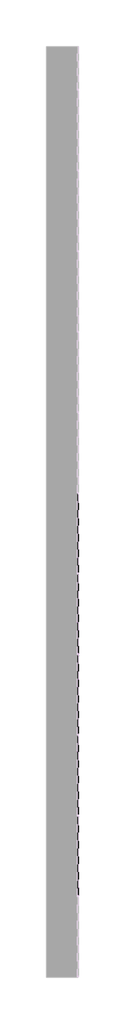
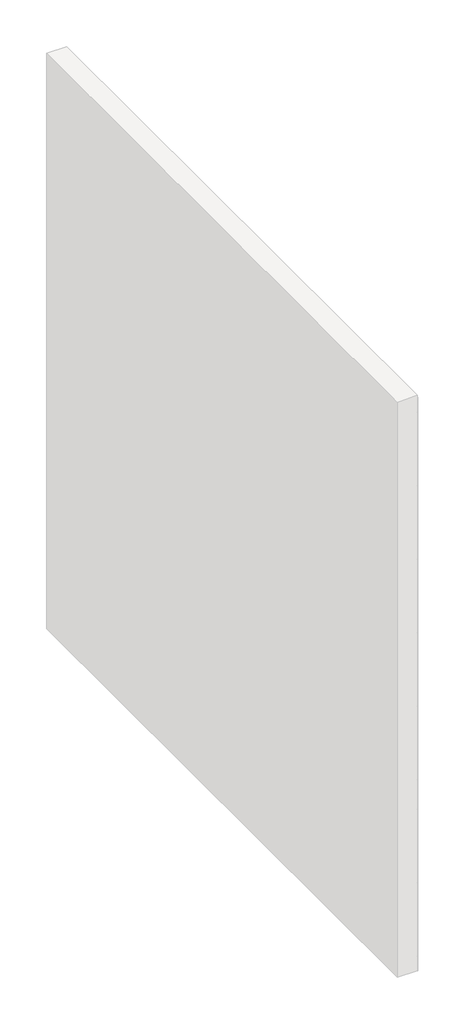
# One storey, part 5 of 45: 147 proxies.
"""IFC4 building model written with IfcOpenShell, lengths in millimetres."""

from ifc_helpers import new_model, si_unit, origin, place, context, project, spatial, transform, mapped, element, save
from components import generic_models_ab0f2c30

model = new_model("IFC4")

# Units and contexts
model_context = context("Model", 3, world=origin())
ifc_project = project(units=[si_unit("LENGTHUNIT", "METRE", prefix="MILLI")], contexts=[model_context])

# Site, building, storey
site = spatial("IfcSite", under=ifc_project)
building = spatial("IfcBuilding", under=site)
storey = spatial("IfcBuildingStorey", under=building, Name="PORTOBELLO - SHOWROOM", Elevation=0.0)

# Proxies
placement = place(None, origin())
generic_models_shape = generic_models_ab0f2c30(model_context)
element("IfcBuildingElementProxy", 1, Name="PBSHOP - HORIZONTES NEW YORK 6,5X23 : NEW YORK DOWNTOWN", ObjectType="PBSHOP - HORIZONTES NEW YORK 6,5X23 : NEW YORK DOWNTOWN", at=placement, inside=storey, context=model_context, shape_type="MappedRepresentation", body=[
    mapped(generic_models_shape, transform((63939.1036979, 6500.0036359, 310.5), x_axis=(0.0, 0.0, 1.0), y_axis=(0.0, -1.0, 0.0), z_axis=(1.0, 0.0, 0.0))),
])
element("IfcBuildingElementProxy", 2, Name="PBSHOP - HORIZONTES NEW YORK 6,5X23 : NEW YORK DOWNTOWN", ObjectType="PBSHOP - HORIZONTES NEW YORK 6,5X23 : NEW YORK DOWNTOWN", at=placement, inside=storey, context=model_context, shape_type="MappedRepresentation", body=[
    mapped(generic_models_shape, transform((63939.1036979, 6734.0036359, 310.5), x_axis=(0.0, 0.0, 1.0), y_axis=(0.0, -1.0, 0.0), z_axis=(1.0, 0.0, 0.0))),
])
element("IfcBuildingElementProxy", 3, Name="PBSHOP - HORIZONTES NEW YORK 6,5X23 : NEW YORK DOWNTOWN", ObjectType="PBSHOP - HORIZONTES NEW YORK 6,5X23 : NEW YORK DOWNTOWN", at=placement, inside=storey, context=model_context, shape_type="MappedRepresentation", body=[
    mapped(generic_models_shape, transform((63939.1036979, 6968.0036359, 310.5), x_axis=(0.0, 0.0, 1.0), y_axis=(0.0, -1.0, 0.0), z_axis=(1.0, 0.0, 0.0))),
])
element("IfcBuildingElementProxy", 4, Name="PBSHOP - HORIZONTES NEW YORK 6,5X23 : NEW YORK DOWNTOWN", ObjectType="PBSHOP - HORIZONTES NEW YORK 6,5X23 : NEW YORK DOWNTOWN", at=placement, inside=storey, context=model_context, shape_type="MappedRepresentation", body=[
    mapped(generic_models_shape, transform((63939.1036979, 6032.0036359, 379.5), x_axis=(0.0, 0.0, 1.0), y_axis=(0.0, -1.0, 0.0), z_axis=(1.0, 0.0, 0.0))),
])
element("IfcBuildingElementProxy", 5, Name="PBSHOP - HORIZONTES NEW YORK 6,5X23 : NEW YORK DOWNTOWN", ObjectType="PBSHOP - HORIZONTES NEW YORK 6,5X23 : NEW YORK DOWNTOWN", at=placement, inside=storey, context=model_context, shape_type="MappedRepresentation", body=[
    mapped(generic_models_shape, transform((63939.1036979, 6266.0036359, 379.5), x_axis=(0.0, 0.0, 1.0), y_axis=(0.0, -1.0, 0.0), z_axis=(1.0, 0.0, 0.0))),
])
element("IfcBuildingElementProxy", 6, Name="PBSHOP - HORIZONTES NEW YORK 6,5X23 : NEW YORK DOWNTOWN", ObjectType="PBSHOP - HORIZONTES NEW YORK 6,5X23 : NEW YORK DOWNTOWN", at=placement, inside=storey, context=model_context, shape_type="MappedRepresentation", body=[
    mapped(generic_models_shape, transform((63939.1036979, 6500.0036359, 379.5), x_axis=(0.0, 0.0, 1.0), y_axis=(0.0, -1.0, 0.0), z_axis=(1.0, 0.0, 0.0))),
])
element("IfcBuildingElementProxy", 7, Name="PBSHOP - HORIZONTES NEW YORK 6,5X23 : NEW YORK DOWNTOWN", ObjectType="PBSHOP - HORIZONTES NEW YORK 6,5X23 : NEW YORK DOWNTOWN", at=placement, inside=storey, context=model_context, shape_type="MappedRepresentation", body=[
    mapped(generic_models_shape, transform((63939.1036979, 6734.0036359, 379.5), x_axis=(0.0, 0.0, 1.0), y_axis=(0.0, -1.0, 0.0), z_axis=(1.0, 0.0, 0.0))),
])
element("IfcBuildingElementProxy", 8, Name="PBSHOP - HORIZONTES NEW YORK 6,5X23 : NEW YORK DOWNTOWN", ObjectType="PBSHOP - HORIZONTES NEW YORK 6,5X23 : NEW YORK DOWNTOWN", at=placement, inside=storey, context=model_context, shape_type="MappedRepresentation", body=[
    mapped(generic_models_shape, transform((63939.1036979, 6968.0036359, 379.5), x_axis=(0.0, 0.0, 1.0), y_axis=(0.0, -1.0, 0.0), z_axis=(1.0, 0.0, 0.0))),
])
element("IfcBuildingElementProxy", 9, Name="PBSHOP - HORIZONTES NEW YORK 6,5X23 : NEW YORK DOWNTOWN", ObjectType="PBSHOP - HORIZONTES NEW YORK 6,5X23 : NEW YORK DOWNTOWN", at=placement, inside=storey, context=model_context, shape_type="MappedRepresentation", body=[
    mapped(generic_models_shape, transform((63939.1036979, 6032.0036359, 448.5), x_axis=(0.0, 0.0, 1.0), y_axis=(0.0, -1.0, 0.0), z_axis=(1.0, 0.0, 0.0))),
])
element("IfcBuildingElementProxy", 10, Name="PBSHOP - HORIZONTES NEW YORK 6,5X23 : NEW YORK DOWNTOWN", ObjectType="PBSHOP - HORIZONTES NEW YORK 6,5X23 : NEW YORK DOWNTOWN", at=placement, inside=storey, context=model_context, shape_type="MappedRepresentation", body=[
    mapped(generic_models_shape, transform((63939.1036979, 6266.0036359, 448.5), x_axis=(0.0, 0.0, 1.0), y_axis=(0.0, -1.0, 0.0), z_axis=(1.0, 0.0, 0.0))),
])
element("IfcBuildingElementProxy", 11, Name="PBSHOP - HORIZONTES NEW YORK 6,5X23 : NEW YORK DOWNTOWN", ObjectType="PBSHOP - HORIZONTES NEW YORK 6,5X23 : NEW YORK DOWNTOWN", at=placement, inside=storey, context=model_context, shape_type="MappedRepresentation", body=[
    mapped(generic_models_shape, transform((63939.1036979, 6500.0036359, 448.5), x_axis=(0.0, 0.0, 1.0), y_axis=(0.0, -1.0, 0.0), z_axis=(1.0, 0.0, 0.0))),
])
element("IfcBuildingElementProxy", 12, Name="PBSHOP - HORIZONTES NEW YORK 6,5X23 : NEW YORK DOWNTOWN", ObjectType="PBSHOP - HORIZONTES NEW YORK 6,5X23 : NEW YORK DOWNTOWN", at=placement, inside=storey, context=model_context, shape_type="MappedRepresentation", body=[
    mapped(generic_models_shape, transform((63939.1036979, 6734.0036359, 448.5), x_axis=(0.0, 0.0, 1.0), y_axis=(0.0, -1.0, 0.0), z_axis=(1.0, 0.0, 0.0))),
])
element("IfcBuildingElementProxy", 13, Name="PBSHOP - HORIZONTES NEW YORK 6,5X23 : NEW YORK DOWNTOWN", ObjectType="PBSHOP - HORIZONTES NEW YORK 6,5X23 : NEW YORK DOWNTOWN", at=placement, inside=storey, context=model_context, shape_type="MappedRepresentation", body=[
    mapped(generic_models_shape, transform((63939.1036979, 6968.0036359, 448.5), x_axis=(0.0, 0.0, 1.0), y_axis=(0.0, -1.0, 0.0), z_axis=(1.0, 0.0, 0.0))),
])
element("IfcBuildingElementProxy", 14, Name="PBSHOP - HORIZONTES NEW YORK 6,5X23 : NEW YORK DOWNTOWN", ObjectType="PBSHOP - HORIZONTES NEW YORK 6,5X23 : NEW YORK DOWNTOWN", at=placement, inside=storey, context=model_context, shape_type="MappedRepresentation", body=[
    mapped(generic_models_shape, transform((63939.1036979, 6032.0036359, 517.5), x_axis=(0.0, 0.0, 1.0), y_axis=(0.0, -1.0, 0.0), z_axis=(1.0, 0.0, 0.0))),
])
element("IfcBuildingElementProxy", 15, Name="PBSHOP - HORIZONTES NEW YORK 6,5X23 : NEW YORK DOWNTOWN", ObjectType="PBSHOP - HORIZONTES NEW YORK 6,5X23 : NEW YORK DOWNTOWN", at=placement, inside=storey, context=model_context, shape_type="MappedRepresentation", body=[
    mapped(generic_models_shape, transform((63939.1036979, 6266.0036359, 517.5), x_axis=(0.0, 0.0, 1.0), y_axis=(0.0, -1.0, 0.0), z_axis=(1.0, 0.0, 0.0))),
])
element("IfcBuildingElementProxy", 16, Name="PBSHOP - HORIZONTES NEW YORK 6,5X23 : NEW YORK DOWNTOWN", ObjectType="PBSHOP - HORIZONTES NEW YORK 6,5X23 : NEW YORK DOWNTOWN", at=placement, inside=storey, context=model_context, shape_type="MappedRepresentation", body=[
    mapped(generic_models_shape, transform((63939.1036979, 6500.0036359, 517.5), x_axis=(0.0, 0.0, 1.0), y_axis=(0.0, -1.0, 0.0), z_axis=(1.0, 0.0, 0.0))),
])
element("IfcBuildingElementProxy", 17, Name="PBSHOP - HORIZONTES NEW YORK 6,5X23 : NEW YORK DOWNTOWN", ObjectType="PBSHOP - HORIZONTES NEW YORK 6,5X23 : NEW YORK DOWNTOWN", at=placement, inside=storey, context=model_context, shape_type="MappedRepresentation", body=[
    mapped(generic_models_shape, transform((63939.1036979, 6734.0036359, 517.5), x_axis=(0.0, 0.0, 1.0), y_axis=(0.0, -1.0, 0.0), z_axis=(1.0, 0.0, 0.0))),
])
element("IfcBuildingElementProxy", 18, Name="PBSHOP - HORIZONTES NEW YORK 6,5X23 : NEW YORK DOWNTOWN", ObjectType="PBSHOP - HORIZONTES NEW YORK 6,5X23 : NEW YORK DOWNTOWN", at=placement, inside=storey, context=model_context, shape_type="MappedRepresentation", body=[
    mapped(generic_models_shape, transform((63939.1036979, 6968.0036359, 517.5), x_axis=(0.0, 0.0, 1.0), y_axis=(0.0, -1.0, 0.0), z_axis=(1.0, 0.0, 0.0))),
])
element("IfcBuildingElementProxy", 19, Name="PBSHOP - HORIZONTES NEW YORK 6,5X23 : NEW YORK DOWNTOWN", ObjectType="PBSHOP - HORIZONTES NEW YORK 6,5X23 : NEW YORK DOWNTOWN", at=placement, inside=storey, context=model_context, shape_type="MappedRepresentation", body=[
    mapped(generic_models_shape, transform((63939.1036979, 6032.0036359, 586.5), x_axis=(0.0, 0.0, 1.0), y_axis=(0.0, -1.0, 0.0), z_axis=(1.0, 0.0, 0.0))),
])
element("IfcBuildingElementProxy", 20, Name="PBSHOP - HORIZONTES NEW YORK 6,5X23 : NEW YORK DOWNTOWN", ObjectType="PBSHOP - HORIZONTES NEW YORK 6,5X23 : NEW YORK DOWNTOWN", at=placement, inside=storey, context=model_context, shape_type="MappedRepresentation", body=[
    mapped(generic_models_shape, transform((63939.1036979, 6266.0036359, 586.5), x_axis=(0.0, 0.0, 1.0), y_axis=(0.0, -1.0, 0.0), z_axis=(1.0, 0.0, 0.0))),
])
element("IfcBuildingElementProxy", 21, Name="PBSHOP - HORIZONTES NEW YORK 6,5X23 : NEW YORK DOWNTOWN", ObjectType="PBSHOP - HORIZONTES NEW YORK 6,5X23 : NEW YORK DOWNTOWN", at=placement, inside=storey, context=model_context, shape_type="MappedRepresentation", body=[
    mapped(generic_models_shape, transform((63939.1036979, 6500.0036359, 586.5), x_axis=(0.0, 0.0, 1.0), y_axis=(0.0, -1.0, 0.0), z_axis=(1.0, 0.0, 0.0))),
])
element("IfcBuildingElementProxy", 22, Name="PBSHOP - HORIZONTES NEW YORK 6,5X23 : NEW YORK DOWNTOWN", ObjectType="PBSHOP - HORIZONTES NEW YORK 6,5X23 : NEW YORK DOWNTOWN", at=placement, inside=storey, context=model_context, shape_type="MappedRepresentation", body=[
    mapped(generic_models_shape, transform((63939.1036979, 6734.0036359, 586.5), x_axis=(0.0, 0.0, 1.0), y_axis=(0.0, -1.0, 0.0), z_axis=(1.0, 0.0, 0.0))),
])
element("IfcBuildingElementProxy", 23, Name="PBSHOP - HORIZONTES NEW YORK 6,5X23 : NEW YORK DOWNTOWN", ObjectType="PBSHOP - HORIZONTES NEW YORK 6,5X23 : NEW YORK DOWNTOWN", at=placement, inside=storey, context=model_context, shape_type="MappedRepresentation", body=[
    mapped(generic_models_shape, transform((63939.1036979, 6968.0036359, 586.5), x_axis=(0.0, 0.0, 1.0), y_axis=(0.0, -1.0, 0.0), z_axis=(1.0, 0.0, 0.0))),
])
element("IfcBuildingElementProxy", 24, Name="PBSHOP - HORIZONTES NEW YORK 6,5X23 : NEW YORK DOWNTOWN", ObjectType="PBSHOP - HORIZONTES NEW YORK 6,5X23 : NEW YORK DOWNTOWN", at=placement, inside=storey, context=model_context, shape_type="MappedRepresentation", body=[
    mapped(generic_models_shape, transform((63939.1036979, 6032.0036359, 655.5), x_axis=(0.0, 0.0, 1.0), y_axis=(0.0, -1.0, 0.0), z_axis=(1.0, 0.0, 0.0))),
])
element("IfcBuildingElementProxy", 25, Name="PBSHOP - HORIZONTES NEW YORK 6,5X23 : NEW YORK DOWNTOWN", ObjectType="PBSHOP - HORIZONTES NEW YORK 6,5X23 : NEW YORK DOWNTOWN", at=placement, inside=storey, context=model_context, shape_type="MappedRepresentation", body=[
    mapped(generic_models_shape, transform((63939.1036979, 6266.0036359, 655.5), x_axis=(0.0, 0.0, 1.0), y_axis=(0.0, -1.0, 0.0), z_axis=(1.0, 0.0, 0.0))),
])
element("IfcBuildingElementProxy", 26, Name="PBSHOP - HORIZONTES NEW YORK 6,5X23 : NEW YORK DOWNTOWN", ObjectType="PBSHOP - HORIZONTES NEW YORK 6,5X23 : NEW YORK DOWNTOWN", at=placement, inside=storey, context=model_context, shape_type="MappedRepresentation", body=[
    mapped(generic_models_shape, transform((63939.1036979, 6500.0036359, 655.5), x_axis=(0.0, 0.0, 1.0), y_axis=(0.0, -1.0, 0.0), z_axis=(1.0, 0.0, 0.0))),
])
element("IfcBuildingElementProxy", 27, Name="PBSHOP - HORIZONTES NEW YORK 6,5X23 : NEW YORK DOWNTOWN", ObjectType="PBSHOP - HORIZONTES NEW YORK 6,5X23 : NEW YORK DOWNTOWN", at=placement, inside=storey, context=model_context, shape_type="MappedRepresentation", body=[
    mapped(generic_models_shape, transform((63939.1036979, 6734.0036359, 655.5), x_axis=(0.0, 0.0, 1.0), y_axis=(0.0, -1.0, 0.0), z_axis=(1.0, 0.0, 0.0))),
])
element("IfcBuildingElementProxy", 28, Name="PBSHOP - HORIZONTES NEW YORK 6,5X23 : NEW YORK DOWNTOWN", ObjectType="PBSHOP - HORIZONTES NEW YORK 6,5X23 : NEW YORK DOWNTOWN", at=placement, inside=storey, context=model_context, shape_type="MappedRepresentation", body=[
    mapped(generic_models_shape, transform((63939.1036979, 6968.0036359, 655.5), x_axis=(0.0, 0.0, 1.0), y_axis=(0.0, -1.0, 0.0), z_axis=(1.0, 0.0, 0.0))),
])
element("IfcBuildingElementProxy", 29, Name="PBSHOP - HORIZONTES NEW YORK 6,5X23 : NEW YORK DOWNTOWN", ObjectType="PBSHOP - HORIZONTES NEW YORK 6,5X23 : NEW YORK DOWNTOWN", at=placement, inside=storey, context=model_context, shape_type="MappedRepresentation", body=[
    mapped(generic_models_shape, transform((63939.1036979, 6032.0036359, 724.5), x_axis=(0.0, 0.0, 1.0), y_axis=(0.0, -1.0, 0.0), z_axis=(1.0, 0.0, 0.0))),
])
element("IfcBuildingElementProxy", 30, Name="PBSHOP - HORIZONTES NEW YORK 6,5X23 : NEW YORK DOWNTOWN", ObjectType="PBSHOP - HORIZONTES NEW YORK 6,5X23 : NEW YORK DOWNTOWN", at=placement, inside=storey, context=model_context, shape_type="MappedRepresentation", body=[
    mapped(generic_models_shape, transform((63939.1036979, 6266.0036359, 724.5), x_axis=(0.0, 0.0, 1.0), y_axis=(0.0, -1.0, 0.0), z_axis=(1.0, 0.0, 0.0))),
])
element("IfcBuildingElementProxy", 31, Name="PBSHOP - HORIZONTES NEW YORK 6,5X23 : NEW YORK DOWNTOWN", ObjectType="PBSHOP - HORIZONTES NEW YORK 6,5X23 : NEW YORK DOWNTOWN", at=placement, inside=storey, context=model_context, shape_type="MappedRepresentation", body=[
    mapped(generic_models_shape, transform((63939.1036979, 6500.0036359, 724.5), x_axis=(0.0, 0.0, 1.0), y_axis=(0.0, -1.0, 0.0), z_axis=(1.0, 0.0, 0.0))),
])
element("IfcBuildingElementProxy", 32, Name="PBSHOP - HORIZONTES NEW YORK 6,5X23 : NEW YORK DOWNTOWN", ObjectType="PBSHOP - HORIZONTES NEW YORK 6,5X23 : NEW YORK DOWNTOWN", at=placement, inside=storey, context=model_context, shape_type="MappedRepresentation", body=[
    mapped(generic_models_shape, transform((63939.1036979, 6734.0036359, 724.5), x_axis=(0.0, 0.0, 1.0), y_axis=(0.0, -1.0, 0.0), z_axis=(1.0, 0.0, 0.0))),
])
element("IfcBuildingElementProxy", 33, Name="PBSHOP - HORIZONTES NEW YORK 6,5X23 : NEW YORK DOWNTOWN", ObjectType="PBSHOP - HORIZONTES NEW YORK 6,5X23 : NEW YORK DOWNTOWN", at=placement, inside=storey, context=model_context, shape_type="MappedRepresentation", body=[
    mapped(generic_models_shape, transform((63939.1036979, 6968.0036359, 724.5), x_axis=(0.0, 0.0, 1.0), y_axis=(0.0, -1.0, 0.0), z_axis=(1.0, 0.0, 0.0))),
])
element("IfcBuildingElementProxy", 34, Name="PBSHOP - HORIZONTES NEW YORK 6,5X23 : NEW YORK DOWNTOWN", ObjectType="PBSHOP - HORIZONTES NEW YORK 6,5X23 : NEW YORK DOWNTOWN", at=placement, inside=storey, context=model_context, shape_type="MappedRepresentation", body=[
    mapped(generic_models_shape, transform((63939.1036979, 6032.0036359, 793.5), x_axis=(0.0, 0.0, 1.0), y_axis=(0.0, -1.0, 0.0), z_axis=(1.0, 0.0, 0.0))),
])
element("IfcBuildingElementProxy", 35, Name="PBSHOP - HORIZONTES NEW YORK 6,5X23 : NEW YORK DOWNTOWN", ObjectType="PBSHOP - HORIZONTES NEW YORK 6,5X23 : NEW YORK DOWNTOWN", at=placement, inside=storey, context=model_context, shape_type="MappedRepresentation", body=[
    mapped(generic_models_shape, transform((63939.1036979, 6266.0036359, 793.5), x_axis=(0.0, 0.0, 1.0), y_axis=(0.0, -1.0, 0.0), z_axis=(1.0, 0.0, 0.0))),
])
element("IfcBuildingElementProxy", 36, Name="PBSHOP - HORIZONTES NEW YORK 6,5X23 : NEW YORK DOWNTOWN", ObjectType="PBSHOP - HORIZONTES NEW YORK 6,5X23 : NEW YORK DOWNTOWN", at=placement, inside=storey, context=model_context, shape_type="MappedRepresentation", body=[
    mapped(generic_models_shape, transform((63939.1036979, 6500.0036359, 793.5), x_axis=(0.0, 0.0, 1.0), y_axis=(0.0, -1.0, 0.0), z_axis=(1.0, 0.0, 0.0))),
])
element("IfcBuildingElementProxy", 37, Name="PBSHOP - HORIZONTES NEW YORK 6,5X23 : NEW YORK DOWNTOWN", ObjectType="PBSHOP - HORIZONTES NEW YORK 6,5X23 : NEW YORK DOWNTOWN", at=placement, inside=storey, context=model_context, shape_type="MappedRepresentation", body=[
    mapped(generic_models_shape, transform((63939.1036979, 6734.0036359, 793.5), x_axis=(0.0, 0.0, 1.0), y_axis=(0.0, -1.0, 0.0), z_axis=(1.0, 0.0, 0.0))),
])
element("IfcBuildingElementProxy", 38, Name="PBSHOP - HORIZONTES NEW YORK 6,5X23 : NEW YORK DOWNTOWN", ObjectType="PBSHOP - HORIZONTES NEW YORK 6,5X23 : NEW YORK DOWNTOWN", at=placement, inside=storey, context=model_context, shape_type="MappedRepresentation", body=[
    mapped(generic_models_shape, transform((63939.1036979, 6968.0036359, 793.5), x_axis=(0.0, 0.0, 1.0), y_axis=(0.0, -1.0, 0.0), z_axis=(1.0, 0.0, 0.0))),
])
element("IfcBuildingElementProxy", 39, Name="PBSHOP - HORIZONTES NEW YORK 6,5X23 : NEW YORK DOWNTOWN", ObjectType="PBSHOP - HORIZONTES NEW YORK 6,5X23 : NEW YORK DOWNTOWN", at=placement, inside=storey, context=model_context, shape_type="MappedRepresentation", body=[
    mapped(generic_models_shape, transform((63939.1036979, 6032.0036359, 862.5), x_axis=(0.0, 0.0, 1.0), y_axis=(0.0, -1.0, 0.0), z_axis=(1.0, 0.0, 0.0))),
])
element("IfcBuildingElementProxy", 40, Name="PBSHOP - HORIZONTES NEW YORK 6,5X23 : NEW YORK DOWNTOWN", ObjectType="PBSHOP - HORIZONTES NEW YORK 6,5X23 : NEW YORK DOWNTOWN", at=placement, inside=storey, context=model_context, shape_type="MappedRepresentation", body=[
    mapped(generic_models_shape, transform((63939.1036979, 6266.0036359, 862.5), x_axis=(0.0, 0.0, 1.0), y_axis=(0.0, -1.0, 0.0), z_axis=(1.0, 0.0, 0.0))),
])
element("IfcBuildingElementProxy", 41, Name="PBSHOP - HORIZONTES NEW YORK 6,5X23 : NEW YORK DOWNTOWN", ObjectType="PBSHOP - HORIZONTES NEW YORK 6,5X23 : NEW YORK DOWNTOWN", at=placement, inside=storey, context=model_context, shape_type="MappedRepresentation", body=[
    mapped(generic_models_shape, transform((63939.1036979, 6500.0036359, 862.5), x_axis=(0.0, 0.0, 1.0), y_axis=(0.0, -1.0, 0.0), z_axis=(1.0, 0.0, 0.0))),
])
element("IfcBuildingElementProxy", 42, Name="PBSHOP - HORIZONTES NEW YORK 6,5X23 : NEW YORK DOWNTOWN", ObjectType="PBSHOP - HORIZONTES NEW YORK 6,5X23 : NEW YORK DOWNTOWN", at=placement, inside=storey, context=model_context, shape_type="MappedRepresentation", body=[
    mapped(generic_models_shape, transform((63939.1036979, 6734.0036359, 862.5), x_axis=(0.0, 0.0, 1.0), y_axis=(0.0, -1.0, 0.0), z_axis=(1.0, 0.0, 0.0))),
])
element("IfcBuildingElementProxy", 43, Name="PBSHOP - HORIZONTES NEW YORK 6,5X23 : NEW YORK DOWNTOWN", ObjectType="PBSHOP - HORIZONTES NEW YORK 6,5X23 : NEW YORK DOWNTOWN", at=placement, inside=storey, context=model_context, shape_type="MappedRepresentation", body=[
    mapped(generic_models_shape, transform((63939.1036979, 6968.0036359, 862.5), x_axis=(0.0, 0.0, 1.0), y_axis=(0.0, -1.0, 0.0), z_axis=(1.0, 0.0, 0.0))),
])
element("IfcBuildingElementProxy", 44, Name="PBSHOP - HORIZONTES NEW YORK 6,5X23 : NEW YORK DOWNTOWN", ObjectType="PBSHOP - HORIZONTES NEW YORK 6,5X23 : NEW YORK DOWNTOWN", at=placement, inside=storey, context=model_context, shape_type="MappedRepresentation", body=[
    mapped(generic_models_shape, transform((63939.1036979, 6032.0036359, 931.5), x_axis=(0.0, 0.0, 1.0), y_axis=(0.0, -1.0, 0.0), z_axis=(1.0, 0.0, 0.0))),
])
element("IfcBuildingElementProxy", 45, Name="PBSHOP - HORIZONTES NEW YORK 6,5X23 : NEW YORK DOWNTOWN", ObjectType="PBSHOP - HORIZONTES NEW YORK 6,5X23 : NEW YORK DOWNTOWN", at=placement, inside=storey, context=model_context, shape_type="MappedRepresentation", body=[
    mapped(generic_models_shape, transform((63939.1036979, 6266.0036359, 931.5), x_axis=(0.0, 0.0, 1.0), y_axis=(0.0, -1.0, 0.0), z_axis=(1.0, 0.0, 0.0))),
])
element("IfcBuildingElementProxy", 46, Name="PBSHOP - HORIZONTES NEW YORK 6,5X23 : NEW YORK DOWNTOWN", ObjectType="PBSHOP - HORIZONTES NEW YORK 6,5X23 : NEW YORK DOWNTOWN", at=placement, inside=storey, context=model_context, shape_type="MappedRepresentation", body=[
    mapped(generic_models_shape, transform((63939.1036979, 6500.0036359, 931.5), x_axis=(0.0, 0.0, 1.0), y_axis=(0.0, -1.0, 0.0), z_axis=(1.0, 0.0, 0.0))),
])
element("IfcBuildingElementProxy", 47, Name="PBSHOP - HORIZONTES NEW YORK 6,5X23 : NEW YORK DOWNTOWN", ObjectType="PBSHOP - HORIZONTES NEW YORK 6,5X23 : NEW YORK DOWNTOWN", at=placement, inside=storey, context=model_context, shape_type="MappedRepresentation", body=[
    mapped(generic_models_shape, transform((63939.1036979, 6734.0036359, 931.5), x_axis=(0.0, 0.0, 1.0), y_axis=(0.0, -1.0, 0.0), z_axis=(1.0, 0.0, 0.0))),
])
element("IfcBuildingElementProxy", 48, Name="PBSHOP - HORIZONTES NEW YORK 6,5X23 : NEW YORK DOWNTOWN", ObjectType="PBSHOP - HORIZONTES NEW YORK 6,5X23 : NEW YORK DOWNTOWN", at=placement, inside=storey, context=model_context, shape_type="MappedRepresentation", body=[
    mapped(generic_models_shape, transform((63939.1036979, 6968.0036359, 931.5), x_axis=(0.0, 0.0, 1.0), y_axis=(0.0, -1.0, 0.0), z_axis=(1.0, 0.0, 0.0))),
])
element("IfcBuildingElementProxy", 49, Name="PBSHOP - HORIZONTES NEW YORK 6,5X23 : NEW YORK DOWNTOWN", ObjectType="PBSHOP - HORIZONTES NEW YORK 6,5X23 : NEW YORK DOWNTOWN", at=placement, inside=storey, context=model_context, shape_type="MappedRepresentation", body=[
    mapped(generic_models_shape, transform((63939.1036979, 6032.0036359, 1000.5), x_axis=(0.0, 0.0, 1.0), y_axis=(0.0, -1.0, 0.0), z_axis=(1.0, 0.0, 0.0))),
])
element("IfcBuildingElementProxy", 50, Name="PBSHOP - HORIZONTES NEW YORK 6,5X23 : NEW YORK DOWNTOWN", ObjectType="PBSHOP - HORIZONTES NEW YORK 6,5X23 : NEW YORK DOWNTOWN", at=placement, inside=storey, context=model_context, shape_type="MappedRepresentation", body=[
    mapped(generic_models_shape, transform((63939.1036979, 6266.0036359, 1000.5), x_axis=(0.0, 0.0, 1.0), y_axis=(0.0, -1.0, 0.0), z_axis=(1.0, 0.0, 0.0))),
])
element("IfcBuildingElementProxy", 51, Name="PBSHOP - HORIZONTES NEW YORK 6,5X23 : NEW YORK DOWNTOWN", ObjectType="PBSHOP - HORIZONTES NEW YORK 6,5X23 : NEW YORK DOWNTOWN", at=placement, inside=storey, context=model_context, shape_type="MappedRepresentation", body=[
    mapped(generic_models_shape, transform((63939.1036979, 6500.0036359, 1000.5), x_axis=(0.0, 0.0, 1.0), y_axis=(0.0, -1.0, 0.0), z_axis=(1.0, 0.0, 0.0))),
])
element("IfcBuildingElementProxy", 52, Name="PBSHOP - HORIZONTES NEW YORK 6,5X23 : NEW YORK DOWNTOWN", ObjectType="PBSHOP - HORIZONTES NEW YORK 6,5X23 : NEW YORK DOWNTOWN", at=placement, inside=storey, context=model_context, shape_type="MappedRepresentation", body=[
    mapped(generic_models_shape, transform((63939.1036979, 6734.0036359, 1000.5), x_axis=(0.0, 0.0, 1.0), y_axis=(0.0, -1.0, 0.0), z_axis=(1.0, 0.0, 0.0))),
])
element("IfcBuildingElementProxy", 53, Name="PBSHOP - HORIZONTES NEW YORK 6,5X23 : NEW YORK DOWNTOWN", ObjectType="PBSHOP - HORIZONTES NEW YORK 6,5X23 : NEW YORK DOWNTOWN", at=placement, inside=storey, context=model_context, shape_type="MappedRepresentation", body=[
    mapped(generic_models_shape, transform((63939.1036979, 6968.0036359, 1000.5), x_axis=(0.0, 0.0, 1.0), y_axis=(0.0, -1.0, 0.0), z_axis=(1.0, 0.0, 0.0))),
])
element("IfcBuildingElementProxy", 54, Name="PBSHOP - HORIZONTES NEW YORK 6,5X23 : NEW YORK DOWNTOWN", ObjectType="PBSHOP - HORIZONTES NEW YORK 6,5X23 : NEW YORK DOWNTOWN", at=placement, inside=storey, context=model_context, shape_type="MappedRepresentation", body=[
    mapped(generic_models_shape, transform((63939.1036979, 6032.0036359, 1069.5), x_axis=(0.0, 0.0, 1.0), y_axis=(0.0, -1.0, 0.0), z_axis=(1.0, 0.0, 0.0))),
])
element("IfcBuildingElementProxy", 55, Name="PBSHOP - HORIZONTES NEW YORK 6,5X23 : NEW YORK DOWNTOWN", ObjectType="PBSHOP - HORIZONTES NEW YORK 6,5X23 : NEW YORK DOWNTOWN", at=placement, inside=storey, context=model_context, shape_type="MappedRepresentation", body=[
    mapped(generic_models_shape, transform((63939.1036979, 6266.0036359, 1069.5), x_axis=(0.0, 0.0, 1.0), y_axis=(0.0, -1.0, 0.0), z_axis=(1.0, 0.0, 0.0))),
])
element("IfcBuildingElementProxy", 56, Name="PBSHOP - HORIZONTES NEW YORK 6,5X23 : NEW YORK DOWNTOWN", ObjectType="PBSHOP - HORIZONTES NEW YORK 6,5X23 : NEW YORK DOWNTOWN", at=placement, inside=storey, context=model_context, shape_type="MappedRepresentation", body=[
    mapped(generic_models_shape, transform((63939.1036979, 6500.0036359, 1069.5), x_axis=(0.0, 0.0, 1.0), y_axis=(0.0, -1.0, 0.0), z_axis=(1.0, 0.0, 0.0))),
])
element("IfcBuildingElementProxy", 57, Name="PBSHOP - HORIZONTES NEW YORK 6,5X23 : NEW YORK DOWNTOWN", ObjectType="PBSHOP - HORIZONTES NEW YORK 6,5X23 : NEW YORK DOWNTOWN", at=placement, inside=storey, context=model_context, shape_type="MappedRepresentation", body=[
    mapped(generic_models_shape, transform((63939.1036979, 6734.0036359, 1069.5), x_axis=(0.0, 0.0, 1.0), y_axis=(0.0, -1.0, 0.0), z_axis=(1.0, 0.0, 0.0))),
])
element("IfcBuildingElementProxy", 58, Name="PBSHOP - HORIZONTES NEW YORK 6,5X23 : NEW YORK DOWNTOWN", ObjectType="PBSHOP - HORIZONTES NEW YORK 6,5X23 : NEW YORK DOWNTOWN", at=placement, inside=storey, context=model_context, shape_type="MappedRepresentation", body=[
    mapped(generic_models_shape, transform((63939.1036979, 6968.0036359, 1069.5), x_axis=(0.0, 0.0, 1.0), y_axis=(0.0, -1.0, 0.0), z_axis=(1.0, 0.0, 0.0))),
])
element("IfcBuildingElementProxy", 59, Name="PBSHOP - HORIZONTES NEW YORK 6,5X23 : NEW YORK DOWNTOWN", ObjectType="PBSHOP - HORIZONTES NEW YORK 6,5X23 : NEW YORK DOWNTOWN", at=placement, inside=storey, context=model_context, shape_type="MappedRepresentation", body=[
    mapped(generic_models_shape, transform((63939.1036979, 6032.0036359, 1138.5), x_axis=(0.0, 0.0, 1.0), y_axis=(0.0, -1.0, 0.0), z_axis=(1.0, 0.0, 0.0))),
])
element("IfcBuildingElementProxy", 60, Name="PBSHOP - HORIZONTES NEW YORK 6,5X23 : NEW YORK DOWNTOWN", ObjectType="PBSHOP - HORIZONTES NEW YORK 6,5X23 : NEW YORK DOWNTOWN", at=placement, inside=storey, context=model_context, shape_type="MappedRepresentation", body=[
    mapped(generic_models_shape, transform((63939.1036979, 6266.0036359, 1138.5), x_axis=(0.0, 0.0, 1.0), y_axis=(0.0, -1.0, 0.0), z_axis=(1.0, 0.0, 0.0))),
])
element("IfcBuildingElementProxy", 61, Name="PBSHOP - HORIZONTES NEW YORK 6,5X23 : NEW YORK DOWNTOWN", ObjectType="PBSHOP - HORIZONTES NEW YORK 6,5X23 : NEW YORK DOWNTOWN", at=placement, inside=storey, context=model_context, shape_type="MappedRepresentation", body=[
    mapped(generic_models_shape, transform((63939.1036979, 6500.0036359, 1138.5), x_axis=(0.0, 0.0, 1.0), y_axis=(0.0, -1.0, 0.0), z_axis=(1.0, 0.0, 0.0))),
])
element("IfcBuildingElementProxy", 62, Name="PBSHOP - HORIZONTES NEW YORK 6,5X23 : NEW YORK DOWNTOWN", ObjectType="PBSHOP - HORIZONTES NEW YORK 6,5X23 : NEW YORK DOWNTOWN", at=placement, inside=storey, context=model_context, shape_type="MappedRepresentation", body=[
    mapped(generic_models_shape, transform((63939.1036979, 6734.0036359, 1138.5), x_axis=(0.0, 0.0, 1.0), y_axis=(0.0, -1.0, 0.0), z_axis=(1.0, 0.0, 0.0))),
])
element("IfcBuildingElementProxy", 63, Name="PBSHOP - HORIZONTES NEW YORK 6,5X23 : NEW YORK DOWNTOWN", ObjectType="PBSHOP - HORIZONTES NEW YORK 6,5X23 : NEW YORK DOWNTOWN", at=placement, inside=storey, context=model_context, shape_type="MappedRepresentation", body=[
    mapped(generic_models_shape, transform((63939.1036979, 6968.0036359, 1138.5), x_axis=(0.0, 0.0, 1.0), y_axis=(0.0, -1.0, 0.0), z_axis=(1.0, 0.0, 0.0))),
])
element("IfcBuildingElementProxy", 64, Name="PBSHOP - HORIZONTES NEW YORK 6,5X23 : NEW YORK DOWNTOWN", ObjectType="PBSHOP - HORIZONTES NEW YORK 6,5X23 : NEW YORK DOWNTOWN", at=placement, inside=storey, context=model_context, shape_type="MappedRepresentation", body=[
    mapped(generic_models_shape, transform((63939.1036979, 6032.0036359, 1207.5), x_axis=(0.0, 0.0, 1.0), y_axis=(0.0, -1.0, 0.0), z_axis=(1.0, 0.0, 0.0))),
])
element("IfcBuildingElementProxy", 65, Name="PBSHOP - HORIZONTES NEW YORK 6,5X23 : NEW YORK DOWNTOWN", ObjectType="PBSHOP - HORIZONTES NEW YORK 6,5X23 : NEW YORK DOWNTOWN", at=placement, inside=storey, context=model_context, shape_type="MappedRepresentation", body=[
    mapped(generic_models_shape, transform((63939.1036979, 6266.0036359, 1207.5), x_axis=(0.0, 0.0, 1.0), y_axis=(0.0, -1.0, 0.0), z_axis=(1.0, 0.0, 0.0))),
])
element("IfcBuildingElementProxy", 66, Name="PBSHOP - HORIZONTES NEW YORK 6,5X23 : NEW YORK DOWNTOWN", ObjectType="PBSHOP - HORIZONTES NEW YORK 6,5X23 : NEW YORK DOWNTOWN", at=placement, inside=storey, context=model_context, shape_type="MappedRepresentation", body=[
    mapped(generic_models_shape, transform((63939.1036979, 6500.0036359, 1207.5), x_axis=(0.0, 0.0, 1.0), y_axis=(0.0, -1.0, 0.0), z_axis=(1.0, 0.0, 0.0))),
])
element("IfcBuildingElementProxy", 67, Name="PBSHOP - HORIZONTES NEW YORK 6,5X23 : NEW YORK DOWNTOWN", ObjectType="PBSHOP - HORIZONTES NEW YORK 6,5X23 : NEW YORK DOWNTOWN", at=placement, inside=storey, context=model_context, shape_type="MappedRepresentation", body=[
    mapped(generic_models_shape, transform((63939.1036979, 6734.0036359, 1207.5), x_axis=(0.0, 0.0, 1.0), y_axis=(0.0, -1.0, 0.0), z_axis=(1.0, 0.0, 0.0))),
])
element("IfcBuildingElementProxy", 68, Name="PBSHOP - HORIZONTES NEW YORK 6,5X23 : NEW YORK DOWNTOWN", ObjectType="PBSHOP - HORIZONTES NEW YORK 6,5X23 : NEW YORK DOWNTOWN", at=placement, inside=storey, context=model_context, shape_type="MappedRepresentation", body=[
    mapped(generic_models_shape, transform((63939.1036979, 6968.0036359, 1207.5), x_axis=(0.0, 0.0, 1.0), y_axis=(0.0, -1.0, 0.0), z_axis=(1.0, 0.0, 0.0))),
])
element("IfcBuildingElementProxy", 69, Name="PBSHOP - HORIZONTES NEW YORK 6,5X23 : NEW YORK DOWNTOWN", ObjectType="PBSHOP - HORIZONTES NEW YORK 6,5X23 : NEW YORK DOWNTOWN", at=placement, inside=storey, context=model_context, shape_type="MappedRepresentation", body=[
    mapped(generic_models_shape, transform((63939.1036979, 6032.0036359, 1276.5), x_axis=(0.0, 0.0, 1.0), y_axis=(0.0, -1.0, 0.0), z_axis=(1.0, 0.0, 0.0))),
])
element("IfcBuildingElementProxy", 70, Name="PBSHOP - HORIZONTES NEW YORK 6,5X23 : NEW YORK DOWNTOWN", ObjectType="PBSHOP - HORIZONTES NEW YORK 6,5X23 : NEW YORK DOWNTOWN", at=placement, inside=storey, context=model_context, shape_type="MappedRepresentation", body=[
    mapped(generic_models_shape, transform((63939.1036979, 6266.0036359, 1276.5), x_axis=(0.0, 0.0, 1.0), y_axis=(0.0, -1.0, 0.0), z_axis=(1.0, 0.0, 0.0))),
])
element("IfcBuildingElementProxy", 71, Name="PBSHOP - HORIZONTES NEW YORK 6,5X23 : NEW YORK DOWNTOWN", ObjectType="PBSHOP - HORIZONTES NEW YORK 6,5X23 : NEW YORK DOWNTOWN", at=placement, inside=storey, context=model_context, shape_type="MappedRepresentation", body=[
    mapped(generic_models_shape, transform((63939.1036979, 6500.0036359, 1276.5), x_axis=(0.0, 0.0, 1.0), y_axis=(0.0, -1.0, 0.0), z_axis=(1.0, 0.0, 0.0))),
])
element("IfcBuildingElementProxy", 72, Name="PBSHOP - HORIZONTES NEW YORK 6,5X23 : NEW YORK DOWNTOWN", ObjectType="PBSHOP - HORIZONTES NEW YORK 6,5X23 : NEW YORK DOWNTOWN", at=placement, inside=storey, context=model_context, shape_type="MappedRepresentation", body=[
    mapped(generic_models_shape, transform((63939.1036979, 6734.0036359, 1276.5), x_axis=(0.0, 0.0, 1.0), y_axis=(0.0, -1.0, 0.0), z_axis=(1.0, 0.0, 0.0))),
])
element("IfcBuildingElementProxy", 73, Name="PBSHOP - HORIZONTES NEW YORK 6,5X23 : NEW YORK DOWNTOWN", ObjectType="PBSHOP - HORIZONTES NEW YORK 6,5X23 : NEW YORK DOWNTOWN", at=placement, inside=storey, context=model_context, shape_type="MappedRepresentation", body=[
    mapped(generic_models_shape, transform((63939.1036979, 6968.0036359, 1276.5), x_axis=(0.0, 0.0, 1.0), y_axis=(0.0, -1.0, 0.0), z_axis=(1.0, 0.0, 0.0))),
])
element("IfcBuildingElementProxy", 74, Name="PBSHOP - HORIZONTES NEW YORK 6,5X23 : NEW YORK DOWNTOWN", ObjectType="PBSHOP - HORIZONTES NEW YORK 6,5X23 : NEW YORK DOWNTOWN", at=placement, inside=storey, context=model_context, shape_type="MappedRepresentation", body=[
    mapped(generic_models_shape, transform((63939.1036979, 6032.0036359, 1345.5), x_axis=(0.0, 0.0, 1.0), y_axis=(0.0, -1.0, 0.0), z_axis=(1.0, 0.0, 0.0))),
])
element("IfcBuildingElementProxy", 75, Name="PBSHOP - HORIZONTES NEW YORK 6,5X23 : NEW YORK DOWNTOWN", ObjectType="PBSHOP - HORIZONTES NEW YORK 6,5X23 : NEW YORK DOWNTOWN", at=placement, inside=storey, context=model_context, shape_type="MappedRepresentation", body=[
    mapped(generic_models_shape, transform((63939.1036979, 6266.0036359, 1345.5), x_axis=(0.0, 0.0, 1.0), y_axis=(0.0, -1.0, 0.0), z_axis=(1.0, 0.0, 0.0))),
])
element("IfcBuildingElementProxy", 76, Name="PBSHOP - HORIZONTES NEW YORK 6,5X23 : NEW YORK DOWNTOWN", ObjectType="PBSHOP - HORIZONTES NEW YORK 6,5X23 : NEW YORK DOWNTOWN", at=placement, inside=storey, context=model_context, shape_type="MappedRepresentation", body=[
    mapped(generic_models_shape, transform((63939.1036979, 6500.0036359, 1345.5), x_axis=(0.0, 0.0, 1.0), y_axis=(0.0, -1.0, 0.0), z_axis=(1.0, 0.0, 0.0))),
])
element("IfcBuildingElementProxy", 77, Name="PBSHOP - HORIZONTES NEW YORK 6,5X23 : NEW YORK DOWNTOWN", ObjectType="PBSHOP - HORIZONTES NEW YORK 6,5X23 : NEW YORK DOWNTOWN", at=placement, inside=storey, context=model_context, shape_type="MappedRepresentation", body=[
    mapped(generic_models_shape, transform((63939.1036979, 6734.0036359, 1345.5), x_axis=(0.0, 0.0, 1.0), y_axis=(0.0, -1.0, 0.0), z_axis=(1.0, 0.0, 0.0))),
])
element("IfcBuildingElementProxy", 78, Name="PBSHOP - HORIZONTES NEW YORK 6,5X23 : NEW YORK DOWNTOWN", ObjectType="PBSHOP - HORIZONTES NEW YORK 6,5X23 : NEW YORK DOWNTOWN", at=placement, inside=storey, context=model_context, shape_type="MappedRepresentation", body=[
    mapped(generic_models_shape, transform((63939.1036979, 6968.0036359, 1345.5), x_axis=(0.0, 0.0, 1.0), y_axis=(0.0, -1.0, 0.0), z_axis=(1.0, 0.0, 0.0))),
])
element("IfcBuildingElementProxy", 79, Name="PBSHOP - HORIZONTES NEW YORK 6,5X23 : NEW YORK DOWNTOWN", ObjectType="PBSHOP - HORIZONTES NEW YORK 6,5X23 : NEW YORK DOWNTOWN", at=placement, inside=storey, context=model_context, shape_type="MappedRepresentation", body=[
    mapped(generic_models_shape, transform((63939.1036979, 6032.0036359, 1414.5), x_axis=(0.0, 0.0, 1.0), y_axis=(0.0, -1.0, 0.0), z_axis=(1.0, 0.0, 0.0))),
])
element("IfcBuildingElementProxy", 80, Name="PBSHOP - HORIZONTES NEW YORK 6,5X23 : NEW YORK DOWNTOWN", ObjectType="PBSHOP - HORIZONTES NEW YORK 6,5X23 : NEW YORK DOWNTOWN", at=placement, inside=storey, context=model_context, shape_type="MappedRepresentation", body=[
    mapped(generic_models_shape, transform((63939.1036979, 6266.0036359, 1414.5), x_axis=(0.0, 0.0, 1.0), y_axis=(0.0, -1.0, 0.0), z_axis=(1.0, 0.0, 0.0))),
])
element("IfcBuildingElementProxy", 81, Name="PBSHOP - HORIZONTES NEW YORK 6,5X23 : NEW YORK DOWNTOWN", ObjectType="PBSHOP - HORIZONTES NEW YORK 6,5X23 : NEW YORK DOWNTOWN", at=placement, inside=storey, context=model_context, shape_type="MappedRepresentation", body=[
    mapped(generic_models_shape, transform((63939.1036979, 6500.0036359, 1414.5), x_axis=(0.0, 0.0, 1.0), y_axis=(0.0, -1.0, 0.0), z_axis=(1.0, 0.0, 0.0))),
])
element("IfcBuildingElementProxy", 82, Name="PBSHOP - HORIZONTES NEW YORK 6,5X23 : NEW YORK DOWNTOWN", ObjectType="PBSHOP - HORIZONTES NEW YORK 6,5X23 : NEW YORK DOWNTOWN", at=placement, inside=storey, context=model_context, shape_type="MappedRepresentation", body=[
    mapped(generic_models_shape, transform((63939.1036979, 6734.0036359, 1414.5), x_axis=(0.0, 0.0, 1.0), y_axis=(0.0, -1.0, 0.0), z_axis=(1.0, 0.0, 0.0))),
])
element("IfcBuildingElementProxy", 83, Name="PBSHOP - HORIZONTES NEW YORK 6,5X23 : NEW YORK DOWNTOWN", ObjectType="PBSHOP - HORIZONTES NEW YORK 6,5X23 : NEW YORK DOWNTOWN", at=placement, inside=storey, context=model_context, shape_type="MappedRepresentation", body=[
    mapped(generic_models_shape, transform((63939.1036979, 6968.0036359, 1414.5), x_axis=(0.0, 0.0, 1.0), y_axis=(0.0, -1.0, 0.0), z_axis=(1.0, 0.0, 0.0))),
])
element("IfcBuildingElementProxy", 84, Name="PBSHOP - HORIZONTES NEW YORK 6,5X23 : NEW YORK DOWNTOWN", ObjectType="PBSHOP - HORIZONTES NEW YORK 6,5X23 : NEW YORK DOWNTOWN", at=placement, inside=storey, context=model_context, shape_type="MappedRepresentation", body=[
    mapped(generic_models_shape, transform((63939.1036979, 6032.0036359, 1483.5), x_axis=(0.0, 0.0, 1.0), y_axis=(0.0, -1.0, 0.0), z_axis=(1.0, 0.0, 0.0))),
])
element("IfcBuildingElementProxy", 85, Name="PBSHOP - HORIZONTES NEW YORK 6,5X23 : NEW YORK DOWNTOWN", ObjectType="PBSHOP - HORIZONTES NEW YORK 6,5X23 : NEW YORK DOWNTOWN", at=placement, inside=storey, context=model_context, shape_type="MappedRepresentation", body=[
    mapped(generic_models_shape, transform((63939.1036979, 6266.0036359, 1483.5), x_axis=(0.0, 0.0, 1.0), y_axis=(0.0, -1.0, 0.0), z_axis=(1.0, 0.0, 0.0))),
])
element("IfcBuildingElementProxy", 86, Name="PBSHOP - HORIZONTES NEW YORK 6,5X23 : NEW YORK DOWNTOWN", ObjectType="PBSHOP - HORIZONTES NEW YORK 6,5X23 : NEW YORK DOWNTOWN", at=placement, inside=storey, context=model_context, shape_type="MappedRepresentation", body=[
    mapped(generic_models_shape, transform((63939.1036979, 6500.0036359, 1483.5), x_axis=(0.0, 0.0, 1.0), y_axis=(0.0, -1.0, 0.0), z_axis=(1.0, 0.0, 0.0))),
])
element("IfcBuildingElementProxy", 87, Name="PBSHOP - HORIZONTES NEW YORK 6,5X23 : NEW YORK DOWNTOWN", ObjectType="PBSHOP - HORIZONTES NEW YORK 6,5X23 : NEW YORK DOWNTOWN", at=placement, inside=storey, context=model_context, shape_type="MappedRepresentation", body=[
    mapped(generic_models_shape, transform((63939.1036979, 6734.0036359, 1483.5), x_axis=(0.0, 0.0, 1.0), y_axis=(0.0, -1.0, 0.0), z_axis=(1.0, 0.0, 0.0))),
])
element("IfcBuildingElementProxy", 88, Name="PBSHOP - HORIZONTES NEW YORK 6,5X23 : NEW YORK DOWNTOWN", ObjectType="PBSHOP - HORIZONTES NEW YORK 6,5X23 : NEW YORK DOWNTOWN", at=placement, inside=storey, context=model_context, shape_type="MappedRepresentation", body=[
    mapped(generic_models_shape, transform((63939.1036979, 6968.0036359, 1483.5), x_axis=(0.0, 0.0, 1.0), y_axis=(0.0, -1.0, 0.0), z_axis=(1.0, 0.0, 0.0))),
])
element("IfcBuildingElementProxy", 89, Name="PBSHOP - HORIZONTES NEW YORK 6,5X23 : NEW YORK DOWNTOWN", ObjectType="PBSHOP - HORIZONTES NEW YORK 6,5X23 : NEW YORK DOWNTOWN", at=placement, inside=storey, context=model_context, shape_type="MappedRepresentation", body=[
    mapped(generic_models_shape, transform((63939.1036979, 6032.0036359, 1552.5), x_axis=(0.0, 0.0, 1.0), y_axis=(0.0, -1.0, 0.0), z_axis=(1.0, 0.0, 0.0))),
])
element("IfcBuildingElementProxy", 90, Name="PBSHOP - HORIZONTES NEW YORK 6,5X23 : NEW YORK DOWNTOWN", ObjectType="PBSHOP - HORIZONTES NEW YORK 6,5X23 : NEW YORK DOWNTOWN", at=placement, inside=storey, context=model_context, shape_type="MappedRepresentation", body=[
    mapped(generic_models_shape, transform((63939.1036979, 6266.0036359, 1552.5), x_axis=(0.0, 0.0, 1.0), y_axis=(0.0, -1.0, 0.0), z_axis=(1.0, 0.0, 0.0))),
])
element("IfcBuildingElementProxy", 91, Name="PBSHOP - HORIZONTES NEW YORK 6,5X23 : NEW YORK DOWNTOWN", ObjectType="PBSHOP - HORIZONTES NEW YORK 6,5X23 : NEW YORK DOWNTOWN", at=placement, inside=storey, context=model_context, shape_type="MappedRepresentation", body=[
    mapped(generic_models_shape, transform((63939.1036979, 6500.0036359, 1552.5), x_axis=(0.0, 0.0, 1.0), y_axis=(0.0, -1.0, 0.0), z_axis=(1.0, 0.0, 0.0))),
])
element("IfcBuildingElementProxy", 92, Name="PBSHOP - HORIZONTES NEW YORK 6,5X23 : NEW YORK DOWNTOWN", ObjectType="PBSHOP - HORIZONTES NEW YORK 6,5X23 : NEW YORK DOWNTOWN", at=placement, inside=storey, context=model_context, shape_type="MappedRepresentation", body=[
    mapped(generic_models_shape, transform((63939.1036979, 6734.0036359, 1552.5), x_axis=(0.0, 0.0, 1.0), y_axis=(0.0, -1.0, 0.0), z_axis=(1.0, 0.0, 0.0))),
])
element("IfcBuildingElementProxy", 93, Name="PBSHOP - HORIZONTES NEW YORK 6,5X23 : NEW YORK DOWNTOWN", ObjectType="PBSHOP - HORIZONTES NEW YORK 6,5X23 : NEW YORK DOWNTOWN", at=placement, inside=storey, context=model_context, shape_type="MappedRepresentation", body=[
    mapped(generic_models_shape, transform((63939.1036979, 6968.0036359, 1552.5), x_axis=(0.0, 0.0, 1.0), y_axis=(0.0, -1.0, 0.0), z_axis=(1.0, 0.0, 0.0))),
])
element("IfcBuildingElementProxy", 94, Name="PBSHOP - HORIZONTES NEW YORK 6,5X23 : NEW YORK DOWNTOWN", ObjectType="PBSHOP - HORIZONTES NEW YORK 6,5X23 : NEW YORK DOWNTOWN", at=placement, inside=storey, context=model_context, shape_type="MappedRepresentation", body=[
    mapped(generic_models_shape, transform((63939.1036979, 6032.0036359, 1621.5), x_axis=(0.0, 0.0, 1.0), y_axis=(0.0, -1.0, 0.0), z_axis=(1.0, 0.0, 0.0))),
])
element("IfcBuildingElementProxy", 95, Name="PBSHOP - HORIZONTES NEW YORK 6,5X23 : NEW YORK DOWNTOWN", ObjectType="PBSHOP - HORIZONTES NEW YORK 6,5X23 : NEW YORK DOWNTOWN", at=placement, inside=storey, context=model_context, shape_type="MappedRepresentation", body=[
    mapped(generic_models_shape, transform((63939.1036979, 6266.0036359, 1621.5), x_axis=(0.0, 0.0, 1.0), y_axis=(0.0, -1.0, 0.0), z_axis=(1.0, 0.0, 0.0))),
])
element("IfcBuildingElementProxy", 96, Name="PBSHOP - HORIZONTES NEW YORK 6,5X23 : NEW YORK DOWNTOWN", ObjectType="PBSHOP - HORIZONTES NEW YORK 6,5X23 : NEW YORK DOWNTOWN", at=placement, inside=storey, context=model_context, shape_type="MappedRepresentation", body=[
    mapped(generic_models_shape, transform((63939.1036979, 6500.0036359, 1621.5), x_axis=(0.0, 0.0, 1.0), y_axis=(0.0, -1.0, 0.0), z_axis=(1.0, 0.0, 0.0))),
])
element("IfcBuildingElementProxy", 97, Name="PBSHOP - HORIZONTES NEW YORK 6,5X23 : NEW YORK DOWNTOWN", ObjectType="PBSHOP - HORIZONTES NEW YORK 6,5X23 : NEW YORK DOWNTOWN", at=placement, inside=storey, context=model_context, shape_type="MappedRepresentation", body=[
    mapped(generic_models_shape, transform((63939.1036979, 6734.0036359, 1621.5), x_axis=(0.0, 0.0, 1.0), y_axis=(0.0, -1.0, 0.0), z_axis=(1.0, 0.0, 0.0))),
])
element("IfcBuildingElementProxy", 98, Name="PBSHOP - HORIZONTES NEW YORK 6,5X23 : NEW YORK DOWNTOWN", ObjectType="PBSHOP - HORIZONTES NEW YORK 6,5X23 : NEW YORK DOWNTOWN", at=placement, inside=storey, context=model_context, shape_type="MappedRepresentation", body=[
    mapped(generic_models_shape, transform((63939.1036979, 6968.0036359, 1621.5), x_axis=(0.0, 0.0, 1.0), y_axis=(0.0, -1.0, 0.0), z_axis=(1.0, 0.0, 0.0))),
])
element("IfcBuildingElementProxy", 99, Name="PBSHOP - HORIZONTES NEW YORK 6,5X23 : NEW YORK DOWNTOWN", ObjectType="PBSHOP - HORIZONTES NEW YORK 6,5X23 : NEW YORK DOWNTOWN", at=placement, inside=storey, context=model_context, shape_type="MappedRepresentation", body=[
    mapped(generic_models_shape, transform((63939.1036979, 6032.0036359, 1690.5), x_axis=(0.0, 0.0, 1.0), y_axis=(0.0, -1.0, 0.0), z_axis=(1.0, 0.0, 0.0))),
])
element("IfcBuildingElementProxy", 100, Name="PBSHOP - HORIZONTES NEW YORK 6,5X23 : NEW YORK DOWNTOWN", ObjectType="PBSHOP - HORIZONTES NEW YORK 6,5X23 : NEW YORK DOWNTOWN", at=placement, inside=storey, context=model_context, shape_type="MappedRepresentation", body=[
    mapped(generic_models_shape, transform((63939.1036979, 6266.0036359, 1690.5), x_axis=(0.0, 0.0, 1.0), y_axis=(0.0, -1.0, 0.0), z_axis=(1.0, 0.0, 0.0))),
])
element("IfcBuildingElementProxy", 101, Name="PBSHOP - HORIZONTES NEW YORK 6,5X23 : NEW YORK DOWNTOWN", ObjectType="PBSHOP - HORIZONTES NEW YORK 6,5X23 : NEW YORK DOWNTOWN", at=placement, inside=storey, context=model_context, shape_type="MappedRepresentation", body=[
    mapped(generic_models_shape, transform((63939.1036979, 6500.0036359, 1690.5), x_axis=(0.0, 0.0, 1.0), y_axis=(0.0, -1.0, 0.0), z_axis=(1.0, 0.0, 0.0))),
])
element("IfcBuildingElementProxy", 102, Name="PBSHOP - HORIZONTES NEW YORK 6,5X23 : NEW YORK DOWNTOWN", ObjectType="PBSHOP - HORIZONTES NEW YORK 6,5X23 : NEW YORK DOWNTOWN", at=placement, inside=storey, context=model_context, shape_type="MappedRepresentation", body=[
    mapped(generic_models_shape, transform((63939.1036979, 6734.0036359, 1690.5), x_axis=(0.0, 0.0, 1.0), y_axis=(0.0, -1.0, 0.0), z_axis=(1.0, 0.0, 0.0))),
])
element("IfcBuildingElementProxy", 103, Name="PBSHOP - HORIZONTES NEW YORK 6,5X23 : NEW YORK DOWNTOWN", ObjectType="PBSHOP - HORIZONTES NEW YORK 6,5X23 : NEW YORK DOWNTOWN", at=placement, inside=storey, context=model_context, shape_type="MappedRepresentation", body=[
    mapped(generic_models_shape, transform((63939.1036979, 6968.0036359, 1690.5), x_axis=(0.0, 0.0, 1.0), y_axis=(0.0, -1.0, 0.0), z_axis=(1.0, 0.0, 0.0))),
])
element("IfcBuildingElementProxy", 104, Name="PBSHOP - HORIZONTES NEW YORK 6,5X23 : NEW YORK DOWNTOWN", ObjectType="PBSHOP - HORIZONTES NEW YORK 6,5X23 : NEW YORK DOWNTOWN", at=placement, inside=storey, context=model_context, shape_type="MappedRepresentation", body=[
    mapped(generic_models_shape, transform((63939.1036979, 6032.0036359, 1759.5), x_axis=(0.0, 0.0, 1.0), y_axis=(0.0, -1.0, 0.0), z_axis=(1.0, 0.0, 0.0))),
])
element("IfcBuildingElementProxy", 105, Name="PBSHOP - HORIZONTES NEW YORK 6,5X23 : NEW YORK DOWNTOWN", ObjectType="PBSHOP - HORIZONTES NEW YORK 6,5X23 : NEW YORK DOWNTOWN", at=placement, inside=storey, context=model_context, shape_type="MappedRepresentation", body=[
    mapped(generic_models_shape, transform((63939.1036979, 6266.0036359, 1759.5), x_axis=(0.0, 0.0, 1.0), y_axis=(0.0, -1.0, 0.0), z_axis=(1.0, 0.0, 0.0))),
])
element("IfcBuildingElementProxy", 106, Name="PBSHOP - HORIZONTES NEW YORK 6,5X23 : NEW YORK DOWNTOWN", ObjectType="PBSHOP - HORIZONTES NEW YORK 6,5X23 : NEW YORK DOWNTOWN", at=placement, inside=storey, context=model_context, shape_type="MappedRepresentation", body=[
    mapped(generic_models_shape, transform((63939.1036979, 6500.0036359, 1759.5), x_axis=(0.0, 0.0, 1.0), y_axis=(0.0, -1.0, 0.0), z_axis=(1.0, 0.0, 0.0))),
])
element("IfcBuildingElementProxy", 107, Name="PBSHOP - HORIZONTES NEW YORK 6,5X23 : NEW YORK DOWNTOWN", ObjectType="PBSHOP - HORIZONTES NEW YORK 6,5X23 : NEW YORK DOWNTOWN", at=placement, inside=storey, context=model_context, shape_type="MappedRepresentation", body=[
    mapped(generic_models_shape, transform((63939.1036979, 6734.0036359, 1759.5), x_axis=(0.0, 0.0, 1.0), y_axis=(0.0, -1.0, 0.0), z_axis=(1.0, 0.0, 0.0))),
])
element("IfcBuildingElementProxy", 108, Name="PBSHOP - HORIZONTES NEW YORK 6,5X23 : NEW YORK DOWNTOWN", ObjectType="PBSHOP - HORIZONTES NEW YORK 6,5X23 : NEW YORK DOWNTOWN", at=placement, inside=storey, context=model_context, shape_type="MappedRepresentation", body=[
    mapped(generic_models_shape, transform((63939.1036979, 6968.0036359, 1759.5), x_axis=(0.0, 0.0, 1.0), y_axis=(0.0, -1.0, 0.0), z_axis=(1.0, 0.0, 0.0))),
])
element("IfcBuildingElementProxy", 109, Name="PBSHOP - HORIZONTES NEW YORK 6,5X23 : NEW YORK DOWNTOWN", ObjectType="PBSHOP - HORIZONTES NEW YORK 6,5X23 : NEW YORK DOWNTOWN", at=placement, inside=storey, context=model_context, shape_type="MappedRepresentation", body=[
    mapped(generic_models_shape, transform((63939.1036979, 6032.0036359, 1828.5), x_axis=(0.0, 0.0, 1.0), y_axis=(0.0, -1.0, 0.0), z_axis=(1.0, 0.0, 0.0))),
])
element("IfcBuildingElementProxy", 110, Name="PBSHOP - HORIZONTES NEW YORK 6,5X23 : NEW YORK DOWNTOWN", ObjectType="PBSHOP - HORIZONTES NEW YORK 6,5X23 : NEW YORK DOWNTOWN", at=placement, inside=storey, context=model_context, shape_type="MappedRepresentation", body=[
    mapped(generic_models_shape, transform((63939.1036979, 6266.0036359, 1828.5), x_axis=(0.0, 0.0, 1.0), y_axis=(0.0, -1.0, 0.0), z_axis=(1.0, 0.0, 0.0))),
])
element("IfcBuildingElementProxy", 111, Name="PBSHOP - HORIZONTES NEW YORK 6,5X23 : NEW YORK DOWNTOWN", ObjectType="PBSHOP - HORIZONTES NEW YORK 6,5X23 : NEW YORK DOWNTOWN", at=placement, inside=storey, context=model_context, shape_type="MappedRepresentation", body=[
    mapped(generic_models_shape, transform((63939.1036979, 6500.0036359, 1828.5), x_axis=(0.0, 0.0, 1.0), y_axis=(0.0, -1.0, 0.0), z_axis=(1.0, 0.0, 0.0))),
])
element("IfcBuildingElementProxy", 112, Name="PBSHOP - HORIZONTES NEW YORK 6,5X23 : NEW YORK DOWNTOWN", ObjectType="PBSHOP - HORIZONTES NEW YORK 6,5X23 : NEW YORK DOWNTOWN", at=placement, inside=storey, context=model_context, shape_type="MappedRepresentation", body=[
    mapped(generic_models_shape, transform((63939.1036979, 6734.0036359, 1828.5), x_axis=(0.0, 0.0, 1.0), y_axis=(0.0, -1.0, 0.0), z_axis=(1.0, 0.0, 0.0))),
])
element("IfcBuildingElementProxy", 113, Name="PBSHOP - HORIZONTES NEW YORK 6,5X23 : NEW YORK DOWNTOWN", ObjectType="PBSHOP - HORIZONTES NEW YORK 6,5X23 : NEW YORK DOWNTOWN", at=placement, inside=storey, context=model_context, shape_type="MappedRepresentation", body=[
    mapped(generic_models_shape, transform((63939.1036979, 6968.0036359, 1828.5), x_axis=(0.0, 0.0, 1.0), y_axis=(0.0, -1.0, 0.0), z_axis=(1.0, 0.0, 0.0))),
])
element("IfcBuildingElementProxy", 114, Name="PBSHOP - HORIZONTES NEW YORK 6,5X23 : NEW YORK DOWNTOWN", ObjectType="PBSHOP - HORIZONTES NEW YORK 6,5X23 : NEW YORK DOWNTOWN", at=placement, inside=storey, context=model_context, shape_type="MappedRepresentation", body=[
    mapped(generic_models_shape, transform((63939.1036979, 6032.0036359, 1897.5), x_axis=(0.0, 0.0, 1.0), y_axis=(0.0, -1.0, 0.0), z_axis=(1.0, 0.0, 0.0))),
])
element("IfcBuildingElementProxy", 115, Name="PBSHOP - HORIZONTES NEW YORK 6,5X23 : NEW YORK DOWNTOWN", ObjectType="PBSHOP - HORIZONTES NEW YORK 6,5X23 : NEW YORK DOWNTOWN", at=placement, inside=storey, context=model_context, shape_type="MappedRepresentation", body=[
    mapped(generic_models_shape, transform((63939.1036979, 6266.0036359, 1897.5), x_axis=(0.0, 0.0, 1.0), y_axis=(0.0, -1.0, 0.0), z_axis=(1.0, 0.0, 0.0))),
])
element("IfcBuildingElementProxy", 116, Name="PBSHOP - HORIZONTES NEW YORK 6,5X23 : NEW YORK DOWNTOWN", ObjectType="PBSHOP - HORIZONTES NEW YORK 6,5X23 : NEW YORK DOWNTOWN", at=placement, inside=storey, context=model_context, shape_type="MappedRepresentation", body=[
    mapped(generic_models_shape, transform((63939.1036979, 6500.0036359, 1897.5), x_axis=(0.0, 0.0, 1.0), y_axis=(0.0, -1.0, 0.0), z_axis=(1.0, 0.0, 0.0))),
])
element("IfcBuildingElementProxy", 117, Name="PBSHOP - HORIZONTES NEW YORK 6,5X23 : NEW YORK DOWNTOWN", ObjectType="PBSHOP - HORIZONTES NEW YORK 6,5X23 : NEW YORK DOWNTOWN", at=placement, inside=storey, context=model_context, shape_type="MappedRepresentation", body=[
    mapped(generic_models_shape, transform((63939.1036979, 6734.0036359, 1897.5), x_axis=(0.0, 0.0, 1.0), y_axis=(0.0, -1.0, 0.0), z_axis=(1.0, 0.0, 0.0))),
])
element("IfcBuildingElementProxy", 118, Name="PBSHOP - HORIZONTES NEW YORK 6,5X23 : NEW YORK DOWNTOWN", ObjectType="PBSHOP - HORIZONTES NEW YORK 6,5X23 : NEW YORK DOWNTOWN", at=placement, inside=storey, context=model_context, shape_type="MappedRepresentation", body=[
    mapped(generic_models_shape, transform((63939.1036979, 6968.0036359, 1897.5), x_axis=(0.0, 0.0, 1.0), y_axis=(0.0, -1.0, 0.0), z_axis=(1.0, 0.0, 0.0))),
])
element("IfcBuildingElementProxy", 119, Name="PBSHOP - HORIZONTES NEW YORK 6,5X23 : NEW YORK DOWNTOWN", ObjectType="PBSHOP - HORIZONTES NEW YORK 6,5X23 : NEW YORK DOWNTOWN", at=placement, inside=storey, context=model_context, shape_type="MappedRepresentation", body=[
    mapped(generic_models_shape, transform((63939.1036979, 6032.0036359, 1966.5), x_axis=(0.0, 0.0, 1.0), y_axis=(0.0, -1.0, 0.0), z_axis=(1.0, 0.0, 0.0))),
])
element("IfcBuildingElementProxy", 120, Name="PBSHOP - HORIZONTES NEW YORK 6,5X23 : NEW YORK DOWNTOWN", ObjectType="PBSHOP - HORIZONTES NEW YORK 6,5X23 : NEW YORK DOWNTOWN", at=placement, inside=storey, context=model_context, shape_type="MappedRepresentation", body=[
    mapped(generic_models_shape, transform((63939.1036979, 6266.0036359, 1966.5), x_axis=(0.0, 0.0, 1.0), y_axis=(0.0, -1.0, 0.0), z_axis=(1.0, 0.0, 0.0))),
])
element("IfcBuildingElementProxy", 121, Name="PBSHOP - HORIZONTES NEW YORK 6,5X23 : NEW YORK DOWNTOWN", ObjectType="PBSHOP - HORIZONTES NEW YORK 6,5X23 : NEW YORK DOWNTOWN", at=placement, inside=storey, context=model_context, shape_type="MappedRepresentation", body=[
    mapped(generic_models_shape, transform((63939.1036979, 6500.0036359, 1966.5), x_axis=(0.0, 0.0, 1.0), y_axis=(0.0, -1.0, 0.0), z_axis=(1.0, 0.0, 0.0))),
])
element("IfcBuildingElementProxy", 122, Name="PBSHOP - HORIZONTES NEW YORK 6,5X23 : NEW YORK DOWNTOWN", ObjectType="PBSHOP - HORIZONTES NEW YORK 6,5X23 : NEW YORK DOWNTOWN", at=placement, inside=storey, context=model_context, shape_type="MappedRepresentation", body=[
    mapped(generic_models_shape, transform((63939.1036979, 6734.0036359, 1966.5), x_axis=(0.0, 0.0, 1.0), y_axis=(0.0, -1.0, 0.0), z_axis=(1.0, 0.0, 0.0))),
])
element("IfcBuildingElementProxy", 123, Name="PBSHOP - HORIZONTES NEW YORK 6,5X23 : NEW YORK DOWNTOWN", ObjectType="PBSHOP - HORIZONTES NEW YORK 6,5X23 : NEW YORK DOWNTOWN", at=placement, inside=storey, context=model_context, shape_type="MappedRepresentation", body=[
    mapped(generic_models_shape, transform((63939.1036979, 6968.0036359, 1966.5), x_axis=(0.0, 0.0, 1.0), y_axis=(0.0, -1.0, 0.0), z_axis=(1.0, 0.0, 0.0))),
])
element("IfcBuildingElementProxy", 124, Name="PBSHOP - HORIZONTES NEW YORK 6,5X23 : NEW YORK DOWNTOWN", ObjectType="PBSHOP - HORIZONTES NEW YORK 6,5X23 : NEW YORK DOWNTOWN", at=placement, inside=storey, context=model_context, shape_type="MappedRepresentation", body=[
    mapped(generic_models_shape, transform((63939.1036979, 6032.0036359, 2035.5), x_axis=(0.0, 0.0, 1.0), y_axis=(0.0, -1.0, 0.0), z_axis=(1.0, 0.0, 0.0))),
])
element("IfcBuildingElementProxy", 125, Name="PBSHOP - HORIZONTES NEW YORK 6,5X23 : NEW YORK DOWNTOWN", ObjectType="PBSHOP - HORIZONTES NEW YORK 6,5X23 : NEW YORK DOWNTOWN", at=placement, inside=storey, context=model_context, shape_type="MappedRepresentation", body=[
    mapped(generic_models_shape, transform((63939.1036979, 6266.0036359, 2035.5), x_axis=(0.0, 0.0, 1.0), y_axis=(0.0, -1.0, 0.0), z_axis=(1.0, 0.0, 0.0))),
])
element("IfcBuildingElementProxy", 126, Name="PBSHOP - HORIZONTES NEW YORK 6,5X23 : NEW YORK DOWNTOWN", ObjectType="PBSHOP - HORIZONTES NEW YORK 6,5X23 : NEW YORK DOWNTOWN", at=placement, inside=storey, context=model_context, shape_type="MappedRepresentation", body=[
    mapped(generic_models_shape, transform((63939.1036979, 6500.0036359, 2035.5), x_axis=(0.0, 0.0, 1.0), y_axis=(0.0, -1.0, 0.0), z_axis=(1.0, 0.0, 0.0))),
])
element("IfcBuildingElementProxy", 127, Name="PBSHOP - HORIZONTES NEW YORK 6,5X23 : NEW YORK DOWNTOWN", ObjectType="PBSHOP - HORIZONTES NEW YORK 6,5X23 : NEW YORK DOWNTOWN", at=placement, inside=storey, context=model_context, shape_type="MappedRepresentation", body=[
    mapped(generic_models_shape, transform((63939.1036979, 6734.0036359, 2035.5), x_axis=(0.0, 0.0, 1.0), y_axis=(0.0, -1.0, 0.0), z_axis=(1.0, 0.0, 0.0))),
])
element("IfcBuildingElementProxy", 128, Name="PBSHOP - HORIZONTES NEW YORK 6,5X23 : NEW YORK DOWNTOWN", ObjectType="PBSHOP - HORIZONTES NEW YORK 6,5X23 : NEW YORK DOWNTOWN", at=placement, inside=storey, context=model_context, shape_type="MappedRepresentation", body=[
    mapped(generic_models_shape, transform((63939.1036979, 6968.0036359, 2035.5), x_axis=(0.0, 0.0, 1.0), y_axis=(0.0, -1.0, 0.0), z_axis=(1.0, 0.0, 0.0))),
])
element("IfcBuildingElementProxy", 129, Name="PBSHOP - HORIZONTES NEW YORK 6,5X23 : NEW YORK DOWNTOWN", ObjectType="PBSHOP - HORIZONTES NEW YORK 6,5X23 : NEW YORK DOWNTOWN", at=placement, inside=storey, context=model_context, shape_type="MappedRepresentation", body=[
    mapped(generic_models_shape, transform((63939.1036979, 6032.0036359, 2104.5), x_axis=(0.0, 0.0, 1.0), y_axis=(0.0, -1.0, 0.0), z_axis=(1.0, 0.0, 0.0))),
])
element("IfcBuildingElementProxy", 130, Name="PBSHOP - HORIZONTES NEW YORK 6,5X23 : NEW YORK DOWNTOWN", ObjectType="PBSHOP - HORIZONTES NEW YORK 6,5X23 : NEW YORK DOWNTOWN", at=placement, inside=storey, context=model_context, shape_type="MappedRepresentation", body=[
    mapped(generic_models_shape, transform((63939.1036979, 6266.0036359, 2104.5), x_axis=(0.0, 0.0, 1.0), y_axis=(0.0, -1.0, 0.0), z_axis=(1.0, 0.0, 0.0))),
])
element("IfcBuildingElementProxy", 131, Name="PBSHOP - HORIZONTES NEW YORK 6,5X23 : NEW YORK DOWNTOWN", ObjectType="PBSHOP - HORIZONTES NEW YORK 6,5X23 : NEW YORK DOWNTOWN", at=placement, inside=storey, context=model_context, shape_type="MappedRepresentation", body=[
    mapped(generic_models_shape, transform((63939.1036979, 6500.0036359, 2104.5), x_axis=(0.0, 0.0, 1.0), y_axis=(0.0, -1.0, 0.0), z_axis=(1.0, 0.0, 0.0))),
])
element("IfcBuildingElementProxy", 132, Name="PBSHOP - HORIZONTES NEW YORK 6,5X23 : NEW YORK DOWNTOWN", ObjectType="PBSHOP - HORIZONTES NEW YORK 6,5X23 : NEW YORK DOWNTOWN", at=placement, inside=storey, context=model_context, shape_type="MappedRepresentation", body=[
    mapped(generic_models_shape, transform((63939.1036979, 6734.0036359, 2104.5), x_axis=(0.0, 0.0, 1.0), y_axis=(0.0, -1.0, 0.0), z_axis=(1.0, 0.0, 0.0))),
])
element("IfcBuildingElementProxy", 133, Name="PBSHOP - HORIZONTES NEW YORK 6,5X23 : NEW YORK DOWNTOWN", ObjectType="PBSHOP - HORIZONTES NEW YORK 6,5X23 : NEW YORK DOWNTOWN", at=placement, inside=storey, context=model_context, shape_type="MappedRepresentation", body=[
    mapped(generic_models_shape, transform((63939.1036979, 6968.0036359, 2104.5), x_axis=(0.0, 0.0, 1.0), y_axis=(0.0, -1.0, 0.0), z_axis=(1.0, 0.0, 0.0))),
])
element("IfcBuildingElementProxy", 134, Name="PBSHOP - HORIZONTES NEW YORK 6,5X23 : NEW YORK DOWNTOWN", ObjectType="PBSHOP - HORIZONTES NEW YORK 6,5X23 : NEW YORK DOWNTOWN", at=placement, inside=storey, context=model_context, shape_type="MappedRepresentation", body=[
    mapped(generic_models_shape, transform((63939.1036979, 6032.0036359, 2173.5), x_axis=(0.0, 0.0, 1.0), y_axis=(0.0, -1.0, 0.0), z_axis=(1.0, 0.0, 0.0))),
])
element("IfcBuildingElementProxy", 135, Name="PBSHOP - HORIZONTES NEW YORK 6,5X23 : NEW YORK DOWNTOWN", ObjectType="PBSHOP - HORIZONTES NEW YORK 6,5X23 : NEW YORK DOWNTOWN", at=placement, inside=storey, context=model_context, shape_type="MappedRepresentation", body=[
    mapped(generic_models_shape, transform((63939.1036979, 6266.0036359, 2173.5), x_axis=(0.0, 0.0, 1.0), y_axis=(0.0, -1.0, 0.0), z_axis=(1.0, 0.0, 0.0))),
])
element("IfcBuildingElementProxy", 136, Name="PBSHOP - HORIZONTES NEW YORK 6,5X23 : NEW YORK DOWNTOWN", ObjectType="PBSHOP - HORIZONTES NEW YORK 6,5X23 : NEW YORK DOWNTOWN", at=placement, inside=storey, context=model_context, shape_type="MappedRepresentation", body=[
    mapped(generic_models_shape, transform((63939.1036979, 6500.0036359, 2173.5), x_axis=(0.0, 0.0, 1.0), y_axis=(0.0, -1.0, 0.0), z_axis=(1.0, 0.0, 0.0))),
])
element("IfcBuildingElementProxy", 137, Name="PBSHOP - HORIZONTES NEW YORK 6,5X23 : NEW YORK DOWNTOWN", ObjectType="PBSHOP - HORIZONTES NEW YORK 6,5X23 : NEW YORK DOWNTOWN", at=placement, inside=storey, context=model_context, shape_type="MappedRepresentation", body=[
    mapped(generic_models_shape, transform((63939.1036979, 6734.0036359, 2173.5), x_axis=(0.0, 0.0, 1.0), y_axis=(0.0, -1.0, 0.0), z_axis=(1.0, 0.0, 0.0))),
])
element("IfcBuildingElementProxy", 138, Name="PBSHOP - HORIZONTES NEW YORK 6,5X23 : NEW YORK DOWNTOWN", ObjectType="PBSHOP - HORIZONTES NEW YORK 6,5X23 : NEW YORK DOWNTOWN", at=placement, inside=storey, context=model_context, shape_type="MappedRepresentation", body=[
    mapped(generic_models_shape, transform((63939.1036979, 6968.0036359, 2173.5), x_axis=(0.0, 0.0, 1.0), y_axis=(0.0, -1.0, 0.0), z_axis=(1.0, 0.0, 0.0))),
])
element("IfcBuildingElementProxy", 139, Name="PBSHOP - HORIZONTES NEW YORK 6,5X23 : NEW YORK DOWNTOWN", ObjectType="PBSHOP - HORIZONTES NEW YORK 6,5X23 : NEW YORK DOWNTOWN", at=placement, inside=storey, context=model_context, shape_type="MappedRepresentation", body=[
    mapped(generic_models_shape, transform((63939.1036979, 6032.0036359, 2242.5), x_axis=(0.0, 0.0, 1.0), y_axis=(0.0, -1.0, 0.0), z_axis=(1.0, 0.0, 0.0))),
])
element("IfcBuildingElementProxy", 140, Name="PBSHOP - HORIZONTES NEW YORK 6,5X23 : NEW YORK DOWNTOWN", ObjectType="PBSHOP - HORIZONTES NEW YORK 6,5X23 : NEW YORK DOWNTOWN", at=placement, inside=storey, context=model_context, shape_type="MappedRepresentation", body=[
    mapped(generic_models_shape, transform((63939.1036979, 6266.0036359, 2242.5), x_axis=(0.0, 0.0, 1.0), y_axis=(0.0, -1.0, 0.0), z_axis=(1.0, 0.0, 0.0))),
])
element("IfcBuildingElementProxy", 141, Name="PBSHOP - HORIZONTES NEW YORK 6,5X23 : NEW YORK DOWNTOWN", ObjectType="PBSHOP - HORIZONTES NEW YORK 6,5X23 : NEW YORK DOWNTOWN", at=placement, inside=storey, context=model_context, shape_type="MappedRepresentation", body=[
    mapped(generic_models_shape, transform((63939.1036979, 6500.0036359, 2242.5), x_axis=(0.0, 0.0, 1.0), y_axis=(0.0, -1.0, 0.0), z_axis=(1.0, 0.0, 0.0))),
])
element("IfcBuildingElementProxy", 142, Name="PBSHOP - HORIZONTES NEW YORK 6,5X23 : NEW YORK DOWNTOWN", ObjectType="PBSHOP - HORIZONTES NEW YORK 6,5X23 : NEW YORK DOWNTOWN", at=placement, inside=storey, context=model_context, shape_type="MappedRepresentation", body=[
    mapped(generic_models_shape, transform((63939.1036979, 6734.0036359, 2242.5), x_axis=(0.0, 0.0, 1.0), y_axis=(0.0, -1.0, 0.0), z_axis=(1.0, 0.0, 0.0))),
])
element("IfcBuildingElementProxy", 143, Name="PBSHOP - HORIZONTES NEW YORK 6,5X23 : NEW YORK DOWNTOWN", ObjectType="PBSHOP - HORIZONTES NEW YORK 6,5X23 : NEW YORK DOWNTOWN", at=placement, inside=storey, context=model_context, shape_type="MappedRepresentation", body=[
    mapped(generic_models_shape, transform((63939.1036979, 6968.0036359, 2242.5), x_axis=(0.0, 0.0, 1.0), y_axis=(0.0, -1.0, 0.0), z_axis=(1.0, 0.0, 0.0))),
])
element("IfcBuildingElementProxy", 144, Name="PBSHOP - HORIZONTES NEW YORK 6,5X23 : NEW YORK DOWNTOWN", ObjectType="PBSHOP - HORIZONTES NEW YORK 6,5X23 : NEW YORK DOWNTOWN", at=placement, inside=storey, context=model_context, shape_type="MappedRepresentation", body=[
    mapped(generic_models_shape, transform((63939.1036979, 6032.0036359, 2311.5), x_axis=(0.0, 0.0, 1.0), y_axis=(0.0, -1.0, 0.0), z_axis=(1.0, 0.0, 0.0))),
])
element("IfcBuildingElementProxy", 145, Name="PBSHOP - HORIZONTES NEW YORK 6,5X23 : NEW YORK DOWNTOWN", ObjectType="PBSHOP - HORIZONTES NEW YORK 6,5X23 : NEW YORK DOWNTOWN", at=placement, inside=storey, context=model_context, shape_type="MappedRepresentation", body=[
    mapped(generic_models_shape, transform((63939.1036979, 6266.0036359, 2311.5), x_axis=(0.0, 0.0, 1.0), y_axis=(0.0, -1.0, 0.0), z_axis=(1.0, 0.0, 0.0))),
])
element("IfcBuildingElementProxy", 146, Name="PBSHOP - HORIZONTES NEW YORK 6,5X23 : NEW YORK DOWNTOWN", ObjectType="PBSHOP - HORIZONTES NEW YORK 6,5X23 : NEW YORK DOWNTOWN", at=placement, inside=storey, context=model_context, shape_type="MappedRepresentation", body=[
    mapped(generic_models_shape, transform((63939.1036979, 6500.0036359, 2311.5), x_axis=(0.0, 0.0, 1.0), y_axis=(0.0, -1.0, 0.0), z_axis=(1.0, 0.0, 0.0))),
])
element("IfcBuildingElementProxy", 147, Name="PBSHOP - HORIZONTES NEW YORK 6,5X23 : NEW YORK DOWNTOWN", ObjectType="PBSHOP - HORIZONTES NEW YORK 6,5X23 : NEW YORK DOWNTOWN", at=placement, inside=storey, context=model_context, shape_type="MappedRepresentation", body=[
    mapped(generic_models_shape, transform((63939.1036979, 6734.0036359, 2311.5), x_axis=(0.0, 0.0, 1.0), y_axis=(0.0, -1.0, 0.0), z_axis=(1.0, 0.0, 0.0))),
])

save(model, "model.ifc")
